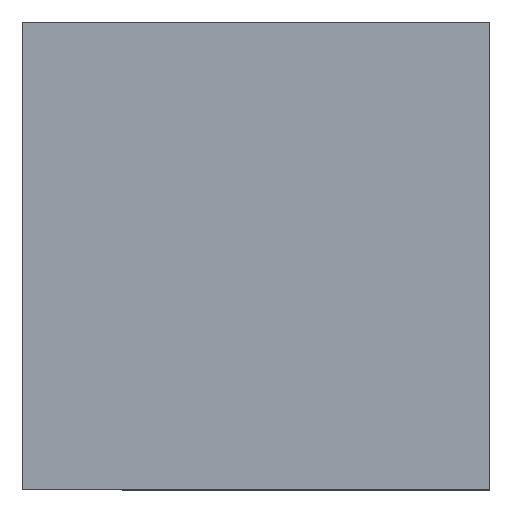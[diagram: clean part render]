
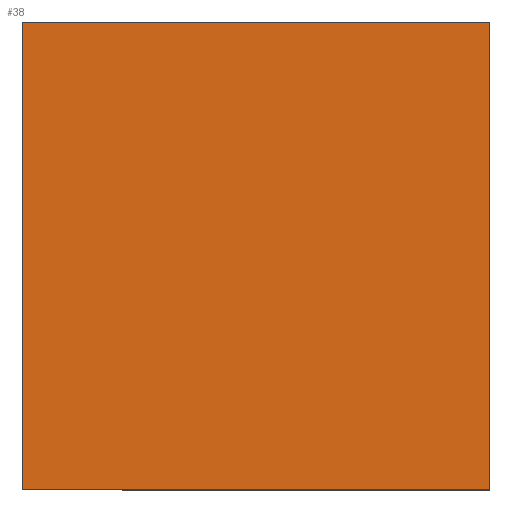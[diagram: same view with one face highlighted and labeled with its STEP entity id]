
A CAD part, top view. The second image highlights one B-rep face of the part: STEP entity #38.
In plain terms, the highlighted planar face has unit normal (0, 0, 1).
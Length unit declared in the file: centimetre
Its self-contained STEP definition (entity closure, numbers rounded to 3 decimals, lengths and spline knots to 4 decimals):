
#21 = CARTESIAN_POINT ( 'NONE',  ( 0., 1000., 1000. ) ) ;
#23 = EDGE_CURVE ( 'NONE', #377, #217, #287, .T. ) ;
#25 = CARTESIAN_POINT ( 'NONE',  ( 0., 1000., 1000. ) ) ;
#33 = DIRECTION ( 'NONE',  ( 0., 0., 1. ) ) ;
#38 = ADVANCED_FACE ( 'NONE', ( #87 ), #255, .T. ) ;
#44 = AXIS2_PLACEMENT_3D ( 'NONE', #193, #33, #351 ) ;
#57 = CARTESIAN_POINT ( 'NONE',  ( 1000., 0., 1000. ) ) ;
#87 = FACE_OUTER_BOUND ( 'NONE', #156, .T. ) ;
#95 = CARTESIAN_POINT ( 'NONE',  ( 1000., 1000., 1000. ) ) ;
#109 = VECTOR ( 'NONE', #179, 100. ) ;
#124 = VECTOR ( 'NONE', #379, 100. ) ;
#126 = LINE ( 'NONE', #201, #109 ) ;
#142 = DIRECTION ( 'NONE',  ( 0., -1., 0. ) ) ;
#156 = EDGE_LOOP ( 'NONE', ( #310, #223, #186, #204 ) ) ;
#164 = LINE ( 'NONE', #190, #355 ) ;
#179 = DIRECTION ( 'NONE',  ( 0., 1., 0. ) ) ;
#185 = VECTOR ( 'NONE', #142, 100. ) ;
#186 = ORIENTED_EDGE ( 'NONE', *, *, #275, .T. ) ;
#187 = VERTEX_POINT ( 'NONE', #57 ) ;
#190 = CARTESIAN_POINT ( 'NONE',  ( 0., 1000., 1000. ) ) ;
#193 = CARTESIAN_POINT ( 'NONE',  ( 0., 0., 1000. ) ) ;
#194 = LINE ( 'NONE', #297, #124 ) ;
#201 = CARTESIAN_POINT ( 'NONE',  ( 1000., 1000., 1000. ) ) ;
#204 = ORIENTED_EDGE ( 'NONE', *, *, #344, .T. ) ;
#206 = CARTESIAN_POINT ( 'NONE',  ( 0., 0., 1000. ) ) ;
#217 = VERTEX_POINT ( 'NONE', #206 ) ;
#223 = ORIENTED_EDGE ( 'NONE', *, *, #239, .T. ) ;
#239 = EDGE_CURVE ( 'NONE', #217, #187, #194, .T. ) ;
#255 = PLANE ( 'NONE',  #44 ) ;
#274 = VERTEX_POINT ( 'NONE', #95 ) ;
#275 = EDGE_CURVE ( 'NONE', #187, #274, #126, .T. ) ;
#287 = LINE ( 'NONE', #25, #185 ) ;
#297 = CARTESIAN_POINT ( 'NONE',  ( 0., 0., 1000. ) ) ;
#310 = ORIENTED_EDGE ( 'NONE', *, *, #23, .T. ) ;
#317 = DIRECTION ( 'NONE',  ( -1., 0., 0. ) ) ;
#344 = EDGE_CURVE ( 'NONE', #274, #377, #164, .T. ) ;
#351 = DIRECTION ( 'NONE',  ( 1., 0., 0. ) ) ;
#355 = VECTOR ( 'NONE', #317, 100. ) ;
#377 = VERTEX_POINT ( 'NONE', #21 ) ;
#379 = DIRECTION ( 'NONE',  ( 1., 0., 0. ) ) ;
